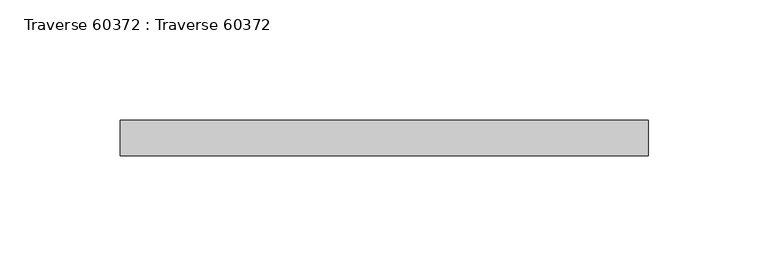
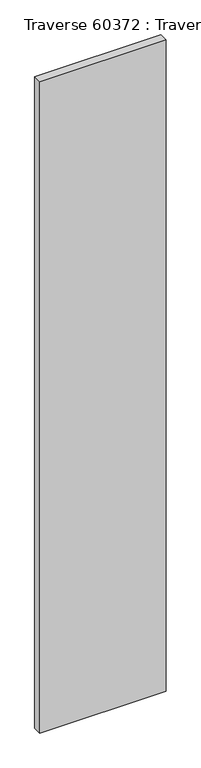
"""IFC4 building model written with IfcOpenShell, lengths in millimetres: beam geometry, Traverse 60372 : Traverse 60372."""

from ifc_helpers import new_model, si_unit, frame, origin, place, context, project, spatial, polyline, outline, extrude, source, transform, mapped, element, save


def traverse_60372_traverse_60372_93c19c04(model_context):
    return source(origin(), model_context, "Body", "SweptSolid", [
        extrude(outline(polyline([(109.9999999, -7981.0), (109.9999999, -7996.0), (-110.0000001, -7996.0), (-110.0000001, -7981.0), (109.9999999, -7981.0)])), frame((0.0, 0.0, 6830.14), z_axis=(0.0, 0.0, 1.0), x_axis=(1.0, 0.0, 0.0)), (0.0, 0.0, 1.0), 1200.0),
    ])


if __name__ == "__main__":
    model = new_model("IFC4")
    model_context = context("Model", 3, world=origin())
    ifc_project = project(units=[si_unit("LENGTHUNIT", "METRE", prefix="MILLI")], contexts=[model_context])
    site = spatial("IfcSite", under=ifc_project)
    building = spatial("IfcBuilding", under=site)
    placement = place(None, origin())
    traverse_60372_traverse_60372_shape = traverse_60372_traverse_60372_93c19c04(model_context)
    element("IfcBeam", 1, ObjectType="Traverse 60372 : Traverse 60372", at=placement, inside=building, context=model_context, shape_type="MappedRepresentation", body=[
        mapped(traverse_60372_traverse_60372_shape, transform((0.0, 0.0, 0.0), x_axis=(1.0, 0.0, 0.0), y_axis=(0.0, 1.0, 0.0), z_axis=(0.0, 0.0, 1.0))),
    ])
    save(model, "model.ifc")
